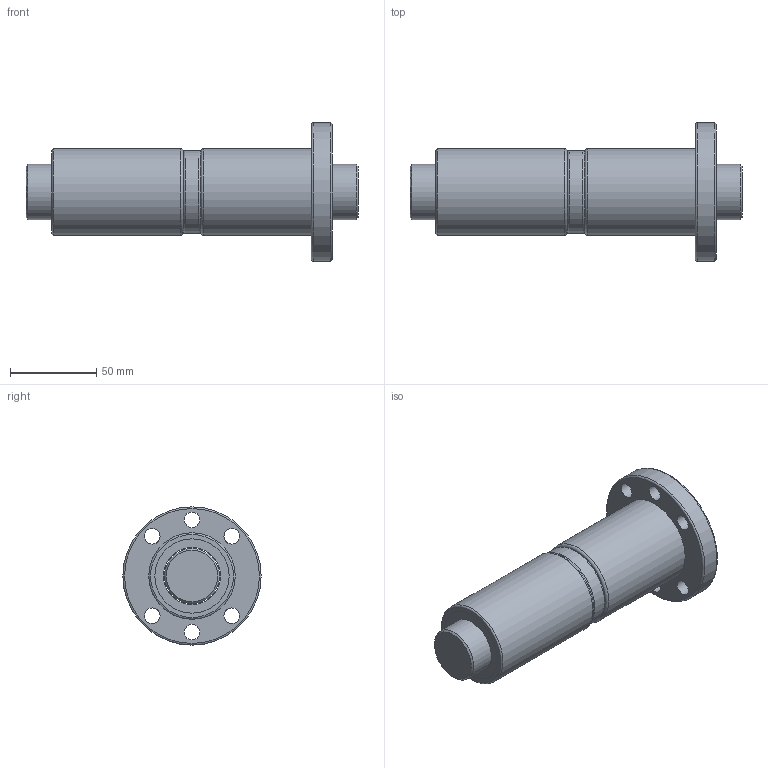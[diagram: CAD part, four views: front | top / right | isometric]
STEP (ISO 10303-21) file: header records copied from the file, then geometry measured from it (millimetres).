
FILE_DESCRIPTION(/* description */ (''),/* implementation_level */ '2;1');
FILE_NAME(/* name */ 'DFU3210',/* time_stamp */ '2007-10-26T10:57:54+08:00',/* author */ (''),/* organization */ (''),/* preprocessor_version */ 'ST-DEVELOPER v9',/* originating_system */ 'EDS PLM SOLUTIONS - UNIGRAPHICS NX 1.0',/* authorisation */ '');
FILE_SCHEMA (('CONFIG_CONTROL_DESIGN'));
Length unit declared in the file: millimetre
Products named in the file (1): FANNDA0400cy
Bounding box: 192 x 80 x 80 mm (x, y, z)
Volume: 364127.4 mm3; surface area: 83390.8 mm2
Topology: 6 solids, 6 shells, 44 faces, 83 edges, 54 vertices
Faces by surface type: cylinder 20, plane 15, torus 7, cone 2
Full cylindrical faces by diameter (mm): 9 x6, 32 x1, 33 x5, 43 x4, 48 x1, 50 x2, 80 x1
Entity records: 1054 total; most frequent: DIRECTION 188, CARTESIAN_POINT 143, EDGE_LOOP 98, ORIENTED_EDGE 98, AXIS2_PLACEMENT_3D 94, FACE_BOUND 81, VERTEX_POINT 49, EDGE_CURVE 49
